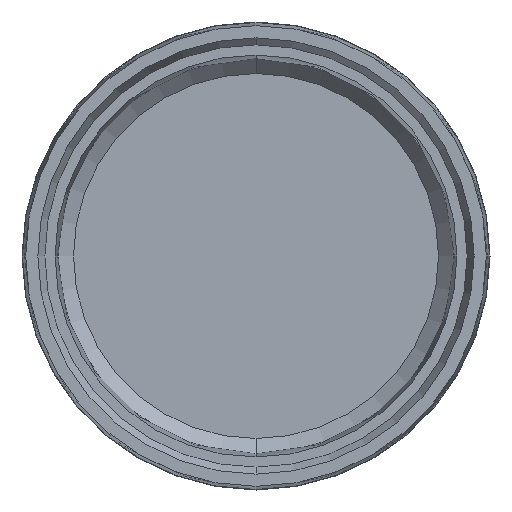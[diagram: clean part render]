
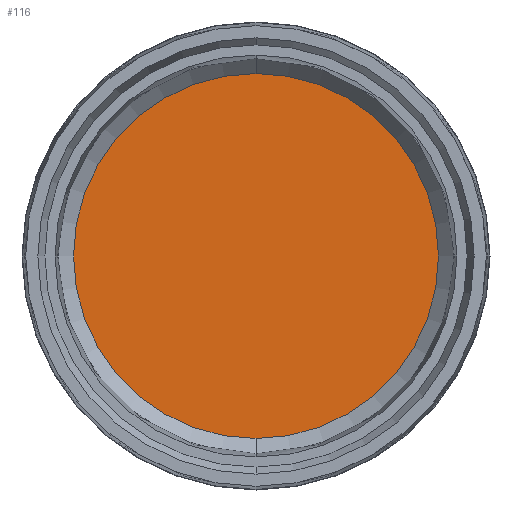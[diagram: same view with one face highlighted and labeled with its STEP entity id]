
A CAD part, front view. The second image highlights one B-rep face of the part: STEP entity #116.
In plain terms, the highlighted planar face has unit normal (0, -1, 0).
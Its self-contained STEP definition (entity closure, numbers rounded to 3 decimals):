
#5 = DIRECTION ( 'NONE',  ( 0., 1., 0. ) ) ;
#28 = CIRCLE ( 'NONE', #470, 17.936 ) ;
#54 = VERTEX_POINT ( 'NONE', #299 ) ;
#59 = VERTEX_POINT ( 'NONE', #583 ) ;
#105 = EDGE_CURVE ( 'NONE', #59, #54, #28, .T. ) ;
#116 = ADVANCED_FACE ( 'NONE', ( #370 ), #442, .F. ) ;
#168 = DIRECTION ( 'NONE',  ( 0., 0., 1. ) ) ;
#172 = DIRECTION ( 'NONE',  ( 0., 0., -1. ) ) ;
#204 = CARTESIAN_POINT ( 'NONE',  ( 0., 21., 0. ) ) ;
#256 = DIRECTION ( 'NONE',  ( 0., -1., 0. ) ) ;
#259 = EDGE_LOOP ( 'NONE', ( #275, #674 ) ) ;
#260 = EDGE_CURVE ( 'NONE', #54, #59, #401, .T. ) ;
#275 = ORIENTED_EDGE ( 'NONE', *, *, #105, .T. ) ;
#299 = CARTESIAN_POINT ( 'NONE',  ( 0., 21., 17.936 ) ) ;
#305 = CARTESIAN_POINT ( 'NONE',  ( 0., 21., 0. ) ) ;
#370 = FACE_OUTER_BOUND ( 'NONE', #259, .T. ) ;
#401 = CIRCLE ( 'NONE', #548, 17.936 ) ;
#442 = PLANE ( 'NONE',  #593 ) ;
#470 = AXIS2_PLACEMENT_3D ( 'NONE', #204, #676, #172 ) ;
#480 = DIRECTION ( 'NONE',  ( 0., 0., -1. ) ) ;
#548 = AXIS2_PLACEMENT_3D ( 'NONE', #305, #256, #480 ) ;
#583 = CARTESIAN_POINT ( 'NONE',  ( 0., 21., -17.936 ) ) ;
#593 = AXIS2_PLACEMENT_3D ( 'NONE', #664, #5, #168 ) ;
#664 = CARTESIAN_POINT ( 'NONE',  ( 0., 21., 0. ) ) ;
#674 = ORIENTED_EDGE ( 'NONE', *, *, #260, .T. ) ;
#676 = DIRECTION ( 'NONE',  ( 0., -1., 0. ) ) ;
